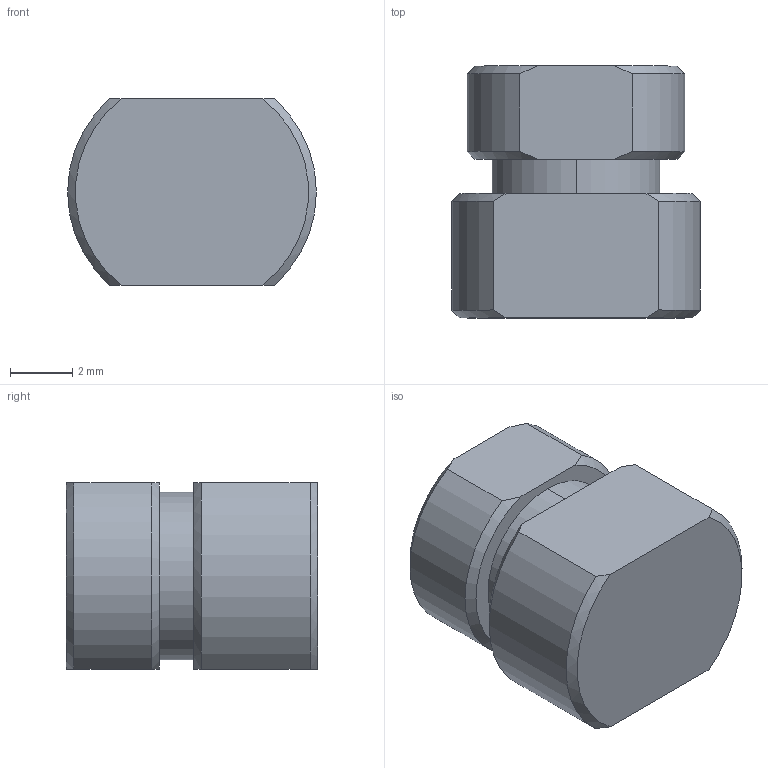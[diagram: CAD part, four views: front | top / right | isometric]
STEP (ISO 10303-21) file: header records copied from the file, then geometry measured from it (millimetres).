
FILE_DESCRIPTION (( 'STEP AP203' ), '1' );
FILE_NAME ('XG11-125.STEP', '2025-03-31T01:56:13', ( '微软用户' ), ( '微软中国' ), 'SwSTEP 2.0', 'SolidWorks 2024', '' );
FILE_SCHEMA (( 'CONFIG_CONTROL_DESIGN' ));
Length unit declared in the file: millimetre
Products named in the file (1): XG11-125
Bounding box: 8 x 8.1 x 6 mm (x, y, z)
Volume: 303.6 mm3; surface area: 283.5 mm2
Topology: 1 solids, 1 shells, 22 faces, 54 edges, 36 vertices
Faces by surface type: plane 8, cone 8, cylinder 6
Entity records: 751 total; most frequent: CARTESIAN_POINT 161, ORIENTED_EDGE 108, DIRECTION 104, EDGE_CURVE 54, AXIS2_PLACEMENT_3D 43, VERTEX_POINT 36, EDGE_LOOP 24, ADVANCED_FACE 22
